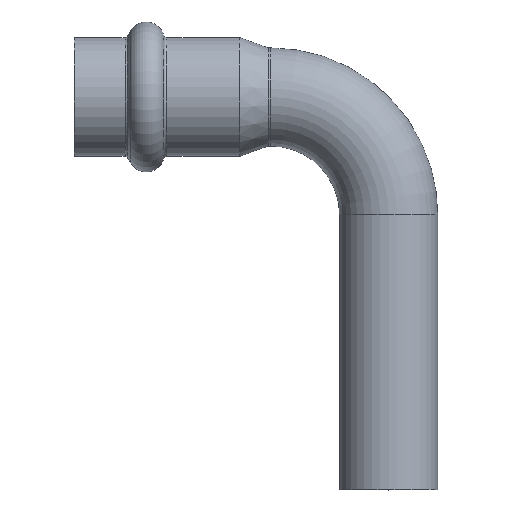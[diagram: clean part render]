
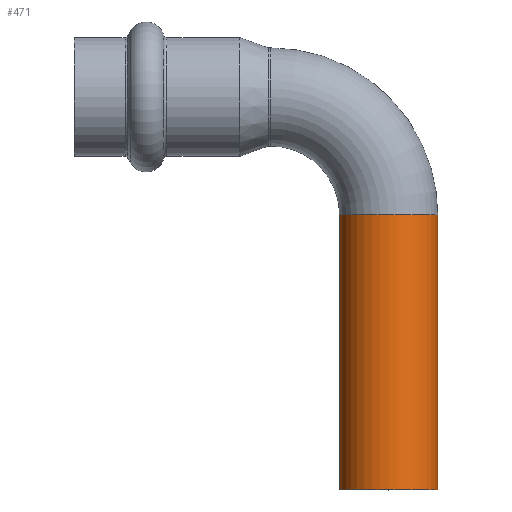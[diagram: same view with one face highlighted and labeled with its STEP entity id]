
A CAD part, top view. The second image highlights one B-rep face of the part: STEP entity #471.
In plain terms, the highlighted cylindrical face has radius 7.5 mm (diameter 15 mm), a full revolution.
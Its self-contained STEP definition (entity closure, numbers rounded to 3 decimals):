
#444=CARTESIAN_POINT('',(0.,-18.,0.0));
#445=DIRECTION('',(0.,-1.0,0.0));
#446=DIRECTION('',(0.0,0.0,1.0));
#447=AXIS2_PLACEMENT_3D('',#444,#445,#446);
#448=CYLINDRICAL_SURFACE('',#447,7.5);
#449=CARTESIAN_POINT('',(0.,-60.0,-7.5));
#450=VERTEX_POINT('',#449);
#451=CARTESIAN_POINT('',(0.,-60.,0.0));
#452=DIRECTION('',(0.0,1.0,0.0));
#453=DIRECTION('',(0.0,0.0,1.0));
#454=AXIS2_PLACEMENT_3D('',#451,#452,#453);
#455=CIRCLE('',#454,7.5);
#456=EDGE_CURVE('',#450,#450,#455,.T.);
#457=ORIENTED_EDGE('',*,*,#456,.T.);
#458=EDGE_LOOP('',(#457));
#459=FACE_OUTER_BOUND('',#458,.T.);
#460=CARTESIAN_POINT('',(0.,-18.,-7.5));
#461=VERTEX_POINT('',#460);
#462=CARTESIAN_POINT('',(0.,-18.,0.0));
#463=DIRECTION('',(0.0,1.0,0.0));
#464=DIRECTION('',(0.0,0.0,1.0));
#465=AXIS2_PLACEMENT_3D('',#462,#463,#464);
#466=CIRCLE('',#465,7.5);
#467=EDGE_CURVE('',#461,#461,#466,.T.);
#468=ORIENTED_EDGE('',*,*,#467,.F.);
#469=EDGE_LOOP('',(#468));
#470=FACE_BOUND('',#469,.T.);
#471=ADVANCED_FACE('',(#459,#470),#448,.T.);
